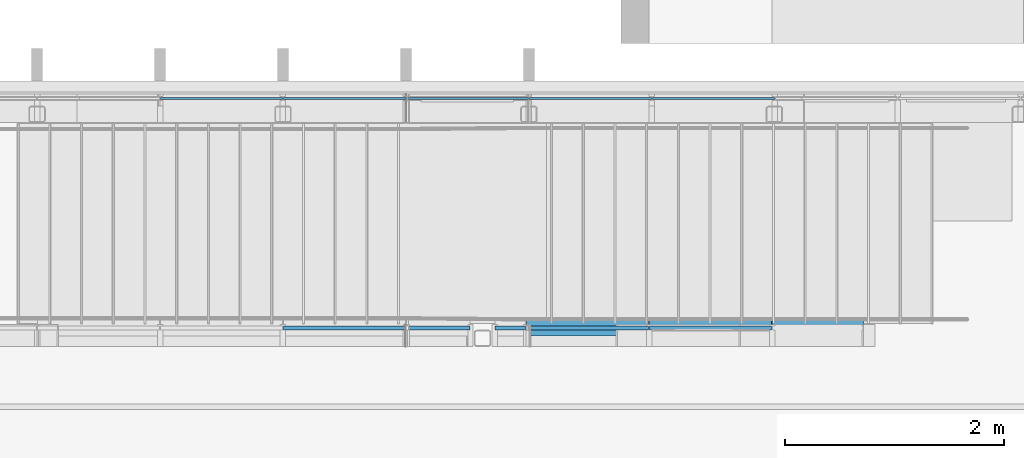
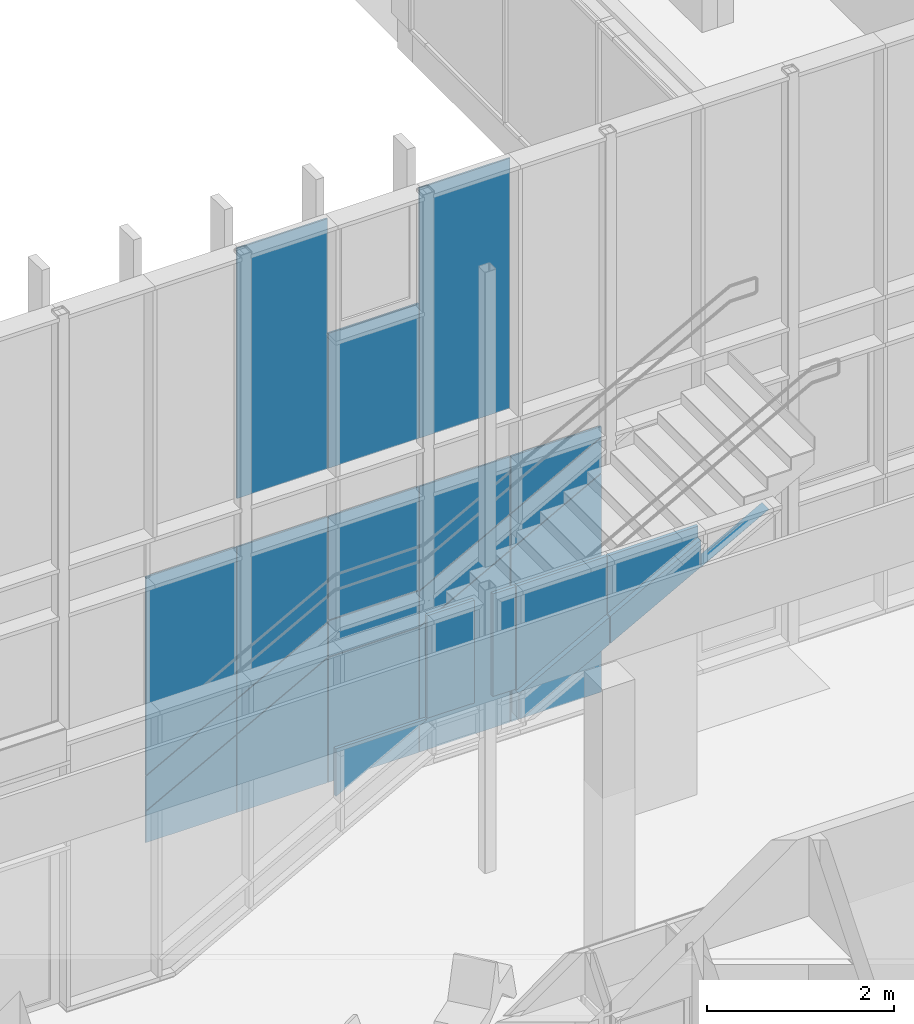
# One storey, part 74 of 301: 25 plates, 3 elements without a shape of their own.
"""IFC2X3 building model written with IfcOpenShell, lengths in millimetres."""

from ifc_helpers import new_model, entity, si_unit, converted_unit, derived_unit, money_unit, direction, frame, origin_with_axes, place, context, subcontext, project, spatial, faceted_brep, material, type_object, element, aggregate, save


model = new_model("IFC2X3")

# Units and contexts
model_context = context("Model", 3, precision=0.01, world=origin_with_axes(), true_north=direction((0.0, 1.0)))
body_context = subcontext(model_context, "Body", "Model", "MODEL_VIEW")
ifc_project = project(units=[si_unit("LENGTHUNIT", "METRE", prefix="MILLI"), si_unit("AREAUNIT", "SQUARE_METRE"), si_unit("VOLUMEUNIT", "CUBIC_METRE"), converted_unit("PLANEANGLEUNIT", "DEGREE", entity("IfcPlaneAngleMeasure", 0.0174532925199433), si_unit("PLANEANGLEUNIT", "RADIAN"), dimensions=[0, 0, 0, 0, 0, 0, 0]), money_unit("EUR"), converted_unit("TIMEUNIT", "Year", entity("IfcTimeMeasure", 31557600.0), si_unit("TIMEUNIT", "SECOND"), dimensions=[0, 0, 1, 0, 0, 0, 0]), si_unit("MASSUNIT", "GRAM", prefix="KILO"), si_unit("THERMODYNAMICTEMPERATUREUNIT", "DEGREE_CELSIUS"), si_unit("LUMINOUSINTENSITYUNIT", "LUMEN"), si_unit("ENERGYUNIT", "JOULE", prefix="MEGA"), derived_unit("THERMALCONDUCTANCEUNIT", [(si_unit("POWERUNIT", "WATT"), 1), (si_unit("LENGTHUNIT", "METRE"), -1), (si_unit("THERMODYNAMICTEMPERATUREUNIT", "KELVIN"), -1)]), derived_unit("SPECIFICHEATCAPACITYUNIT", [(si_unit("ENERGYUNIT", "JOULE"), 1), (si_unit("MASSUNIT", "GRAM", prefix="KILO"), -1), (si_unit("THERMODYNAMICTEMPERATUREUNIT", "KELVIN"), -1)]), derived_unit("MASSDENSITYUNIT", [(si_unit("MASSUNIT", "GRAM", prefix="KILO"), 1), (si_unit("VOLUMEUNIT", "CUBIC_METRE"), -1)])], contexts=[model_context])

# Site, building, storey
site_placement = place(None, frame((0.0, 0.0, 8650.0), z_axis=(0.0, 0.0, 1.0), x_axis=(1.0, 0.0, 0.0)))
site = spatial("IfcSite", under=ifc_project, at=site_placement, Name="43301:001:0844", CompositionType="ELEMENT")
building_placement = place(site_placement, origin_with_axes())
building = spatial("IfcBuilding", under=site, at=building_placement, Name="Kuressaare Ametikooli tuulikute mehaanikute õppekorpus", CompositionType="ELEMENT")
storey_placement = place(building_placement, origin_with_axes())
storey = spatial("IfcBuildingStorey", under=building, at=storey_placement, Name="1.korrus", CompositionType="ELEMENT", Elevation=0.0)

# Curtain wall, plates
curtain_wall_type = type_object("IfcCurtainWallType", Name="Curtain Wall Type", PredefinedType="NOTDEFINED")
curtain_wall_1_placement = place(storey_placement, frame((116704.6026822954, 28579.57374875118, 35.00000000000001), z_axis=(0.0, 0.0, 1.0), x_axis=(1.0, 0.0, 0.0)))
curtain_wall_1 = element("IfcCurtainWall", 1, at=curtain_wall_1_placement, inside=storey, type_object=curtain_wall_type, Name="KF-1.1")
ifc_material_1 = material(Name="Aluminium")
plate_type_1 = type_object("IfcPlateType", Name="20", PredefinedType="NOTDEFINED")
plate_1_placement = place(curtain_wall_1_placement, frame((-3487.500000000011, 0.0, 2731.833061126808), z_axis=(0.0, 0.0, 1.0), x_axis=(-1.0, 0.0, 0.0)))
plate_1 = element("IfcPlate", 2, at=plate_1_placement, type_object=plate_type_1, material=ifc_material_1, context=body_context, shape_type="Brep", body=[
    faceted_brep([(-670.0000055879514, 10.00000000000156, 586.6954813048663), (-670.0000055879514, -10.00000000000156, 586.6954813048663), (445.0000055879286, -10.00000000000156, -19.42579489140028), (445.0000055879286, 10.00000000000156, -19.42579489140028), (-670.0000055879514, 10.00000000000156, 129.5825914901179), (-670.0000055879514, -10.00000000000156, 129.5825914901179), (445.0000055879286, -10.00000000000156, -476.5386847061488), (445.0000055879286, -10.00000000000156, -220.31358457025), (445.0000055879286, 10.00000000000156, -220.31358457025), (445.0000055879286, 10.00000000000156, -476.5386847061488)], [[[0, 1, 2, 3]], [[4, 5, 1, 0]], [[1, 5, 6, 7, 2]], [[3, 2, 7, 8]], [[0, 3, 8, 9, 4]], [[9, 6, 5, 4]], [[8, 7, 6, 9]]]),
])
plate_2_placement = place(curtain_wall_1_placement, frame((-4500.0, 0.0, 2208.822659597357), z_axis=(0.0, 0.0, 1.0), x_axis=(-1.0, 0.0, 0.0)))
plate_2 = element("IfcPlate", 3, at=plate_2_placement, type_object=plate_type_1, material=ifc_material_1, context=body_context, shape_type="Brep", body=[
    faceted_brep([(-557.50000558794, 10.00000000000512, 498.148541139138), (-557.50000558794, -9.99999999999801, 498.148541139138), (557.50000558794, -9.99999999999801, -107.9727350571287), (557.50000558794, 10.00000000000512, -107.9727350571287), (-557.50000558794, 10.00000000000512, 302.6968231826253), (-557.50000558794, -9.99999999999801, 302.6968231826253), (-557.50000558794, -9.99999999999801, 41.03565132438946), (557.50000558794, -9.99999999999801, -565.0856248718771), (557.50000558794, -9.99999999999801, -168.8226440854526), (557.50000558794, 10.00000000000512, -168.8226440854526), (557.50000558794, 10.00000000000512, -565.0856248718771), (-557.50000558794, 10.00000000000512, 41.03565132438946)], [[[0, 1, 2, 3]], [[4, 5, 1, 0]], [[1, 5, 6, 7, 8, 2]], [[3, 2, 8, 9]], [[0, 3, 9, 10, 11, 4]], [[11, 6, 5, 4]], [[10, 7, 6, 11]], [[9, 8, 7, 10]]]),
])
plate_3_placement = place(curtain_wall_1_placement, frame((-6750.0, 0.0, 1559.36315356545), z_axis=(0.0, 0.0, 1.0), x_axis=(-1.0, 0.0, 0.0)))
plate_3 = element("IfcPlate", 4, at=plate_3_placement, type_object=plate_type_1, material=ifc_material_1, context=body_context, shape_type="Brep", body=[
    faceted_brep([(-557.50000558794, 10.00000000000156, 527.2779608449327), (-557.50000558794, -10.00000000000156, 527.2779608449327), (557.50000558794, -10.00000000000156, -78.93759508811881), (557.50000558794, 10.00000000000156, -78.93759508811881), (-557.50000558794, 10.00000000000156, 78.93759601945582), (-557.50000558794, -10.00000000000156, 78.93759601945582), (557.50000558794, -10.00000000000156, -527.2779766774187), (557.50000558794, 10.00000000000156, -527.2779766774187)], [[[0, 1, 2, 3]], [[4, 5, 1, 0]], [[1, 5, 6, 2]], [[3, 2, 6, 7]], [[0, 3, 7, 4]], [[7, 6, 5, 4]]]),
])
plate_4_placement = place(curtain_wall_1_placement, frame((-7875.0, 0.0, 947.7106907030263), z_axis=(0.0, 0.0, 1.0), x_axis=(-1.0, 0.0, 0.0)))
plate_4 = element("IfcPlate", 5, at=plate_4_placement, type_object=plate_type_1, material=ifc_material_1, context=body_context, shape_type="Brep", body=[
    faceted_brep([(-557.50000558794, 10.00000000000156, 527.2779623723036), (-557.50000558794, -10.00000000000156, 527.2779623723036), (557.50000558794, -10.00000000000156, -78.9375600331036), (557.50000558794, 10.00000000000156, -78.9375600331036), (-557.50000558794, 10.00000000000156, 78.93758078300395), (-557.50000558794, -10.00000000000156, 78.93758078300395), (557.50000558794, -10.00000000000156, -527.2779919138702), (557.50000558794, 10.00000000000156, -527.2779919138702)], [[[0, 1, 2, 3]], [[4, 5, 1, 0]], [[1, 5, 6, 2]], [[3, 2, 6, 7]], [[0, 3, 7, 4]], [[7, 6, 5, 4]]]),
])
plate_type_2 = type_object("IfcPlateType", Name="1097 x 458 x 20", PredefinedType="NOTDEFINED")
plate_5_placement = place(curtain_wall_1_placement, frame((-5620.8948575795, 0.0, 1979.082700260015), z_axis=(0.0, 0.0, 1.0), x_axis=(-1.0, 0.0, 0.0)))
plate_5 = element("IfcPlate", 6, at=plate_5_placement, type_object=plate_type_2, material=ifc_material_1, context=body_context, shape_type="Brep", body=[
    faceted_brep([(-553.3948631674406, 10.00000000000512, 129.4661270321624), (-553.3948631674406, -9.99999999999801, 129.4661270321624), (543.8507178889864, -9.99999999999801, 129.4661270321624), (543.8507178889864, 10.00000000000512, 129.4661270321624), (-553.3948631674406, 10.00000000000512, 124.7402043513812), (-553.3948631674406, -9.99999999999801, 124.7402043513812), (-553.3948631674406, -9.99999999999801, 60.91731525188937), (-553.3948631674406, -9.99999999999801, -338.7547229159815), (561.6051480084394, -9.99999999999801, -338.7547229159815), (561.6051480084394, -9.99999999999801, 118.9341215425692), (561.6051480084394, 10.00000000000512, 118.9341215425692), (561.6051480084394, 10.00000000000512, -338.7547229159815), (-553.3948631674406, 10.00000000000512, -338.7547229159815), (-553.3948631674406, 10.00000000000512, 60.91731525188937)], [[[0, 1, 2, 3]], [[4, 5, 1, 0]], [[1, 5, 6, 7, 8, 9, 2]], [[3, 2, 9, 10]], [[0, 3, 10, 11, 12, 13, 4]], [[13, 6, 5, 4]], [[12, 7, 6, 13]], [[11, 8, 7, 12]], [[10, 9, 8, 11]]]),
])
ifc_material_2 = material(Name="Klaas")
plate_type_3 = type_object("IfcPlateType", Name="Main Panel 1115 x 1625 x 20", PredefinedType="NOTDEFINED")
plate_6_placement = place(curtain_wall_1_placement, frame((-5625.0, 0.0, 817.6639914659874), z_axis=(0.0, 0.0, 1.0), x_axis=(-1.0, 0.0, 0.0)))
plate_6 = element("IfcPlate", 7, at=plate_6_placement, type_object=plate_type_3, material=ifc_material_2, context=body_context, shape_type="Brep", body=[
    faceted_brep([(-557.4999943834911, 10.00000000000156, 812.6639799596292), (-557.4999943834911, -10.00000000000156, 812.6639799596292), (557.499988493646, -10.00000000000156, 812.6639799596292), (557.499988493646, 10.00000000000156, 812.6639799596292), (-557.4999943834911, 10.00000000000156, -812.6639799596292), (-557.4999943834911, -10.00000000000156, -812.6639799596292), (557.499988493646, -10.00000000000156, -812.6639799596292), (557.499988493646, 10.00000000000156, -812.6639799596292)], [[[0, 1, 2, 3]], [[4, 5, 1, 0]], [[1, 5, 6, 2]], [[3, 2, 6, 7]], [[0, 3, 7, 4]], [[7, 6, 5, 4]]]),
])
plate_type_4 = type_object("IfcPlateType", Name="Main Panel 1115 x 1627 x 20", PredefinedType="NOTDEFINED")
plate_7_placement = place(curtain_wall_1_placement, frame((-4500.0, 0.0, 970.5533268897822), z_axis=(0.0, 0.0, 1.0), x_axis=(-1.0, 0.0, 0.0)))
plate_7 = element("IfcPlate", 8, at=plate_7_placement, type_object=plate_type_4, material=ifc_material_2, context=body_context, shape_type="Brep", body=[
    faceted_brep([(-557.4999880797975, 10.00000000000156, 1267.92295186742), (-557.4999880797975, -10.00000000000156, 1267.92295186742), (557.5000132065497, -10.00000000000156, 661.8016897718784), (557.5000132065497, 10.00000000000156, 661.8016897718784), (-557.4999880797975, 10.00000000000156, -965.5533400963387), (-557.4999880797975, -10.00000000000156, -965.5533400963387), (557.5000132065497, -10.00000000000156, -965.5533400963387), (557.5000132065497, 10.00000000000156, -965.5533400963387)], [[[0, 1, 2, 3]], [[4, 5, 1, 0]], [[1, 5, 6, 2]], [[3, 2, 6, 7]], [[0, 3, 7, 4]], [[7, 6, 5, 4]]]),
])
plate_type_5 = type_object("IfcPlateType", Name="Main Panel 1115 x 3260 x 20", PredefinedType="NOTDEFINED")
plate_8_placement = place(curtain_wall_1_placement, frame((-6637.500000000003, 0.0, 5751.999997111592), z_axis=(0.0, 0.0, 1.0), x_axis=(-1.0, 0.0, 0.0)))
plate_8 = element("IfcPlate", 9, at=plate_8_placement, type_object=plate_type_5, material=ifc_material_2, context=body_context, shape_type="Brep", body=[
    faceted_brep([(-444.999978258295, 10.00000000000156, 1602.99994103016), (-444.999978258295, -10.00000000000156, 1602.99994103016), (669.9999924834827, -10.00000000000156, 1602.99994103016), (669.9999924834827, 10.00000000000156, 1602.99994103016), (-444.999978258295, 10.00000000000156, 108.0000812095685), (-444.999978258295, -10.00000000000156, 108.0000812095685), (-444.999978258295, -10.00000000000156, -1656.999989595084), (669.9999924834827, -10.00000000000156, -1656.999989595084), (669.9999924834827, 10.00000000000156, -1656.999989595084), (-444.999978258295, 10.00000000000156, -1656.999989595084)], [[[0, 1, 2, 3]], [[4, 5, 1, 0]], [[1, 5, 6, 7, 2]], [[3, 2, 7, 8]], [[0, 3, 8, 9, 4]], [[9, 6, 5, 4]], [[8, 7, 6, 9]]]),
])
plate_type_6 = type_object("IfcPlateType", Name="Main Panel 1115 x 2239 x 20", PredefinedType="NOTDEFINED")
plate_9_placement = place(curtain_wall_1_placement, frame((-3262.500000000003, 0.0, 1441.065590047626), z_axis=(0.0, 0.0, 1.0), x_axis=(-1.0, 0.0, 0.0)))
plate_9 = element("IfcPlate", 10, at=plate_9_placement, type_object=plate_type_6, material=ifc_material_2, context=body_context, shape_type="Brep", body=[
    faceted_brep([(-444.9999883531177, 10.00000000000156, 1408.968052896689), (-444.9999883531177, -10.00000000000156, 1408.968052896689), (669.9999998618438, -10.00000000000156, 802.8467450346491), (669.9999998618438, 10.00000000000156, 802.8467450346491), (-444.9999883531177, 10.00000000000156, 658.934382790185), (-444.9999883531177, -10.00000000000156, 658.934382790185), (-444.9999883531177, -10.00000000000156, -1436.065589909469), (669.9999998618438, -10.00000000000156, -1436.065589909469), (669.9999998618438, 10.00000000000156, -1436.065589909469), (-444.9999883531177, 10.00000000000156, -1436.065589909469)], [[[0, 1, 2, 3]], [[4, 5, 1, 0]], [[1, 5, 6, 7, 2]], [[3, 2, 7, 8]], [[0, 3, 8, 9, 4]], [[9, 6, 5, 4]], [[8, 7, 6, 9]]]),
])
plate_type_7 = type_object("IfcPlateType", Name="Main Panel 1115 x 383 x 20", PredefinedType="NOTDEFINED")
plate_10_placement = place(curtain_wall_1_placement, frame((-7987.500000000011, 0.0, 364.8246381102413), z_axis=(0.0, 0.0, 1.0), x_axis=(-1.0, 0.0, 0.0)))
plate_10 = element("IfcPlate", 11, at=plate_10_placement, type_object=plate_type_7, material=ifc_material_2, context=body_context, shape_type="Brep", body=[
    faceted_brep([(-670.0000055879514, 10.00000000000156, 650.4411914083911), (-670.0000055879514, -10.00000000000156, 650.4411914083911), (445.0000055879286, -10.00000000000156, 44.22561871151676), (445.0000055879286, 10.00000000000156, 44.22561871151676), (-670.0000055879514, 10.00000000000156, -359.8246436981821), (-670.0000055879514, -10.00000000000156, -359.8246436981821), (445.0000055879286, -10.00000000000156, -359.8246436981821), (445.0000055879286, -10.00000000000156, 23.60001521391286), (445.0000055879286, 10.00000000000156, 23.60001521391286), (445.0000055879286, 10.00000000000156, -359.8246436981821)], [[[0, 1, 2, 3]], [[4, 5, 1, 0]], [[1, 5, 6, 7, 2]], [[3, 2, 7, 8]], [[0, 3, 8, 9, 4]], [[9, 6, 5, 4]], [[8, 7, 6, 9]]]),
])
plate_type_8 = type_object("IfcPlateType", Name="Main Panel 1115 x 1016 x 20", PredefinedType="NOTDEFINED")
plate_11_placement = place(curtain_wall_1_placement, frame((-6750.0, 0.0, 664.7508719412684), z_axis=(0.0, 0.0, 1.0), x_axis=(-1.0, 0.0, 0.0)))
plate_11 = element("IfcPlate", 12, at=plate_11_placement, type_object=plate_type_8, material=ifc_material_2, context=body_context, shape_type="Brep", body=[
    faceted_brep([(-557.4999943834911, 10.00000000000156, 962.1674369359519), (-557.4999943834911, -10.00000000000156, 962.1674369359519), (557.499988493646, -10.00000000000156, 355.9518692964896), (557.499988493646, 10.00000000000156, 355.9518692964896), (-557.4999943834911, 10.00000000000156, -659.7508604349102), (-557.4999943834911, -10.00000000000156, -659.7508604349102), (557.499988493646, -10.00000000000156, -659.7508604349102), (557.499988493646, 10.00000000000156, -659.7508604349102)], [[[0, 1, 2, 3]], [[4, 5, 1, 0]], [[1, 5, 6, 2]], [[3, 2, 6, 7]], [[0, 3, 7, 4]], [[7, 6, 5, 4]]]),
])
plate_type_9 = type_object("IfcPlateType", Name="Main Panel 1115 x 1973 x 20", PredefinedType="NOTDEFINED")
plate_12_placement = place(curtain_wall_1_placement, frame((-6637.500000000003, 0.0, 2526.399592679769), z_axis=(0.0, 0.0, 1.0), x_axis=(-1.0, 0.0, 0.0)))
plate_12 = element("IfcPlate", 13, at=plate_12_placement, type_object=plate_type_9, material=ifc_material_2, context=body_context, shape_type="Brep", body=[
    faceted_brep([(-445.000004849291, 10.00000000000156, 938.6004139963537), (-445.000004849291, -10.00000000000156, 938.6004139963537), (669.9999986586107, -10.00000000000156, 938.6004139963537), (669.9999986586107, 10.00000000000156, 938.6004139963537), (-445.000004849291, 10.00000000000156, -412.8507718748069), (-445.000004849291, -10.00000000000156, -412.8507718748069), (-445.000004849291, -10.00000000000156, -428.3760369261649), (669.9999986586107, -10.00000000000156, -1034.591589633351), (669.9999986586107, 10.00000000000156, -1034.591589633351), (-445.000004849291, 10.00000000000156, -428.3760369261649)], [[[0, 1, 2, 3]], [[4, 5, 1, 0]], [[1, 5, 6, 7, 2]], [[3, 2, 7, 8]], [[0, 3, 8, 9, 4]], [[9, 6, 5, 4]], [[8, 7, 6, 9]]]),
])
plate_type_10 = type_object("IfcPlateType", Name="Main Panel 1115 x 2585 x 20", PredefinedType="NOTDEFINED")
plate_13_placement = place(curtain_wall_1_placement, frame((-7875.0, 0.0, 2323.786061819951), z_axis=(0.0, 0.0, 1.0), x_axis=(-1.0, 0.0, 0.0)))
plate_13 = element("IfcPlate", 14, at=plate_13_placement, type_object=plate_type_10, material=ifc_material_2, context=body_context, shape_type="Brep", body=[
    faceted_brep([(-557.500011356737, 10.00000000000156, 1141.213960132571), (-557.500011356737, -10.00000000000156, 1141.213960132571), (557.5000139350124, -10.00000000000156, 1141.213960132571), (557.5000139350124, 10.00000000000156, 1141.213960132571), (-557.500011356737, 10.00000000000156, -837.4149306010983), (-557.500011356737, -10.00000000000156, -837.4149306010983), (557.5000139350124, -10.00000000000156, -1443.630510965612), (557.5000139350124, 10.00000000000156, -1443.630510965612)], [[[0, 1, 2, 3]], [[4, 5, 1, 0]], [[1, 5, 6, 2]], [[3, 2, 6, 7]], [[0, 3, 7, 4]], [[7, 6, 5, 4]]]),
])
plate_type_11 = type_object("IfcPlateType", Name="Main Panel 1115 x 1351 x 20", PredefinedType="NOTDEFINED")
plate_14_placement = place(curtain_wall_1_placement, frame((-4612.500000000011, 0.0, 2774.550398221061), z_axis=(0.0, 0.0, 1.0), x_axis=(-1.0, 0.0, 0.0)))
plate_14 = element("IfcPlate", 15, at=plate_14_placement, type_object=plate_type_11, material=ifc_material_2, context=body_context, shape_type="Brep", body=[
    faceted_brep([(-670.000008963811, 10.00000000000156, 690.4496015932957), (-670.000008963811, -10.00000000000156, 690.4496015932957), (444.9999917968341, -10.00000000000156, 690.4496015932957), (444.9999917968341, 10.00000000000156, 690.4496015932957), (-670.000008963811, 10.00000000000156, -56.19714670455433), (-670.000008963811, -10.00000000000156, -56.19714670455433), (444.9999917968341, -10.00000000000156, -662.318426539), (444.9999917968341, -10.00000000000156, -661.0015912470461), (444.9999917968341, 10.00000000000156, -661.0015912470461), (444.9999917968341, 10.00000000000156, -662.318426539)], [[[0, 1, 2, 3]], [[4, 5, 1, 0]], [[1, 5, 6, 7, 2]], [[3, 2, 7, 8]], [[0, 3, 8, 9, 4]], [[9, 6, 5, 4]], [[8, 7, 6, 9]]]),
])
plate_type_12 = type_object("IfcPlateType", Name="Main Panel 1115 x 741 x 20", PredefinedType="NOTDEFINED")
plate_15_placement = place(curtain_wall_1_placement, frame((-3375.0, 0.0, 3245.579463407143), z_axis=(0.0, 0.0, 1.0), x_axis=(-1.0, 0.0, 0.0)))
plate_15 = element("IfcPlate", 16, at=plate_15_placement, type_object=plate_type_12, material=ifc_material_2, context=body_context, shape_type="Brep", body=[
    faceted_brep([(-557.50000558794, 10.00000000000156, 219.4205475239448), (-557.50000558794, -10.00000000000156, 219.4205475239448), (557.50000558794, -10.00000000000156, 219.4205475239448), (557.50000558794, 10.00000000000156, 219.4205475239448), (-557.50000558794, 10.00000000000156, 84.33111253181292), (-557.50000558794, -10.00000000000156, 84.33111253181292), (557.50000558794, -10.00000000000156, -521.7901636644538), (557.50000558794, 10.00000000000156, -521.7901636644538)], [[[0, 1, 2, 3]], [[4, 5, 1, 0]], [[1, 5, 6, 2]], [[3, 2, 6, 7]], [[0, 3, 7, 4]], [[7, 6, 5, 4]]]),
])
plate_type_13 = type_object("IfcPlateType", Name="Main Panel 1115 x 1346 x 20", PredefinedType="NOTDEFINED")
plate_16_placement = place(curtain_wall_1_placement, frame((-5731.263355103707, 0.0, 2656.129295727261), z_axis=(0.0, 0.0, 1.0), x_axis=(-1.0, 0.0, 0.0)))
plate_16 = element("IfcPlate", 17, at=plate_16_placement, type_object=plate_type_13, material=ifc_material_2, context=body_context, shape_type="Brep", body=[
    faceted_brep([(-663.7633482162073, 10.00000000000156, 808.8707126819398), (-663.7633482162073, -10.00000000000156, 808.8707126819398), (451.2366452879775, -10.00000000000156, 808.8707126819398), (451.2366452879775, 10.00000000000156, 808.8707126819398), (-663.7633482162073, 10.00000000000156, -537.5804752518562), (-663.7633482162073, -10.00000000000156, -537.5804752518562), (425.0534150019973, -10.00000000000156, -537.5804752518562), (451.2366452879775, -10.00000000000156, -537.5804752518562), (451.2366452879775, 10.00000000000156, -537.5804752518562), (425.0534150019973, 10.00000000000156, -537.5804752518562)], [[[0, 1, 2, 3]], [[4, 5, 1, 0]], [[1, 5, 6, 7, 2]], [[3, 2, 7, 8]], [[0, 3, 8, 9, 4]], [[9, 6, 5, 4]], [[8, 7, 6, 9]]]),
])
plate_type_14 = type_object("IfcPlateType", Name="Main Panel 1115 x 1495 x 20", PredefinedType="NOTDEFINED")
plate_17_placement = place(curtain_wall_1_placement, frame((-4612.500000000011, 0.0, 5751.999997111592), z_axis=(0.0, 0.0, 1.0), x_axis=(-1.0, 0.0, 0.0)))
plate_17 = element("IfcPlate", 18, at=plate_17_placement, type_object=plate_type_14, material=ifc_material_2, context=body_context, shape_type="Brep", body=[
    faceted_brep([(-669.9999782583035, 10.00000000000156, 1602.99994103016), (-669.9999782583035, -10.00000000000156, 1602.99994103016), (444.9999924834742, -10.00000000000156, 1602.99994103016), (444.9999924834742, 10.00000000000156, 1602.99994103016), (-669.9999782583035, 10.00000000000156, -1656.999989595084), (-669.9999782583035, -10.00000000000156, -1656.999989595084), (444.9999924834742, -10.00000000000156, -1656.999989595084), (444.9999924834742, -10.00000000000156, 108.0000812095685), (444.9999924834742, 10.00000000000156, 108.0000812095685), (444.9999924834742, 10.00000000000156, -1656.999989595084)], [[[0, 1, 2, 3]], [[4, 5, 1, 0]], [[1, 5, 6, 7, 2]], [[3, 2, 7, 8]], [[0, 3, 8, 9, 4]], [[9, 6, 5, 4]], [[8, 7, 6, 9]]]),
])
plate_type_15 = type_object("IfcPlateType", Name="Main Panel 1115 x 1760 x 20", PredefinedType="NOTDEFINED")
plate_18_placement = place(curtain_wall_1_placement, frame((-5625.0, 0.0, 4975.00004712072), z_axis=(0.0, 0.0, 1.0), x_axis=(-1.0, 0.0, 0.0)))
plate_18 = element("IfcPlate", 19, at=plate_18_placement, type_object=plate_type_15, material=ifc_material_2, context=body_context, shape_type="Brep", body=[
    faceted_brep([(-557.4999957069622, 10.00000000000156, 880.0000437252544), (-557.4999957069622, -10.00000000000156, 880.0000437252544), (557.499996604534, -10.00000000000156, 880.0000437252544), (557.499996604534, 10.00000000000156, 880.0000437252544), (-557.4999957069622, 10.00000000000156, -880.0000437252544), (-557.4999957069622, -10.00000000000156, -880.0000437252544), (557.499996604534, -10.00000000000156, -880.0000437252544), (557.499996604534, 10.00000000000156, -880.0000437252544)], [[[0, 1, 2, 3]], [[4, 5, 1, 0]], [[1, 5, 6, 2]], [[3, 2, 6, 7]], [[0, 3, 7, 4]], [[7, 6, 5, 4]]]),
])
aggregate(curtain_wall_1, [plate_1, plate_2, plate_5, plate_6, plate_7, plate_8, plate_9, plate_10, plate_11, plate_3, plate_4, plate_13, plate_12, plate_16, plate_14, plate_15, plate_17, plate_18])

curtain_wall_2_placement = place(storey_placement, frame((105155.4360221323, 26479.57374875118, 34.99996632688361), z_axis=(0.0, 0.0, 1.0), x_axis=(1.0, 0.0, 0.0)))
curtain_wall_2 = element("IfcCurtainWall", 20, at=curtain_wall_2_placement, inside=storey, type_object=curtain_wall_type, Name="SKF-1.1,EI60")
plate_type_16 = type_object("IfcPlateType", Name="Main Panel 1115 x 622 x 40", PredefinedType="NOTDEFINED")
plate_19_placement = place(curtain_wall_2_placement, frame((4910.666659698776, 0.0, 1983.828580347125), z_axis=(0.0, 0.0, 1.0), x_axis=(-1.0, 0.0, 0.0)))
plate_19 = element("IfcPlate", 21, at=plate_19_placement, type_object=plate_type_16, material=ifc_material_2, context=body_context, shape_type="Brep", body=[
    faceted_brep([(-446.0000060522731, 20.00000000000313, 129.7203163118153), (-446.0000060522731, -19.99999999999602, 129.7203163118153), (669.0000051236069, -19.99999999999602, 129.7241049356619), (669.0000051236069, 20.00000000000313, 129.7241049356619), (-445.9999892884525, 20.00000000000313, 124.7203051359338), (-445.9999892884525, -19.99999999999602, 124.7203051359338), (-446.0000060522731, -19.99999999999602, 114.2589088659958), (669.0000051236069, -19.99999999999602, -492.0408182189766), (669.0000051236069, 20.00000000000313, -492.0408182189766), (-446.0000060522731, 20.00000000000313, 114.2589088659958)], [[[0, 1, 2, 3]], [[4, 5, 1, 0]], [[1, 5, 6, 7, 2]], [[3, 2, 7, 8]], [[0, 3, 8, 9, 4]], [[9, 6, 5, 4]], [[8, 7, 6, 9]]]),
])
plate_type_17 = type_object("IfcPlateType", Name="Main Panel 581 x 1336 x 40", PredefinedType="NOTDEFINED")
plate_20_placement = place(curtain_wall_2_placement, frame((5656.256645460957, 0.0, 2562.365909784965), z_axis=(0.0, 0.0, 1.0), x_axis=(-1.0, 0.0, 0.0)))
plate_20 = element("IfcPlate", 22, at=plate_20_placement, type_object=plate_type_17, material=ifc_material_2, context=body_context, shape_type="Brep", body=[
    faceted_brep([(-291.256647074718, 20.00000000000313, 892.6341083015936), (-291.256647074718, -19.99999999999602, 892.6341083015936), (289.5899897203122, -19.99999999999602, 892.6340481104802), (289.5899897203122, 20.00000000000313, 892.6340481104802), (-291.256647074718, 20.00000000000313, -448.817037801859), (-291.256647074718, -19.99999999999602, -448.817037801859), (-257.3562894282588, -19.99999999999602, -448.817037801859), (-257.3562894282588, -19.99999999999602, -443.8170422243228), (260.689607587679, -19.99999999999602, -443.8170422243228), (289.5899897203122, -19.99999999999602, -443.8170422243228), (289.5899897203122, 20.00000000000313, -443.8170422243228), (260.689607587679, 20.00000000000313, -443.8170422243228), (-257.3562894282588, 20.00000000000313, -443.8170422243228), (-257.3562894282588, 20.00000000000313, -448.817037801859)], [[[0, 1, 2, 3]], [[4, 5, 1, 0]], [[1, 5, 6, 7, 8, 9, 2]], [[3, 2, 9, 10]], [[0, 3, 10, 11, 12, 13, 4]], [[13, 6, 5, 4]], [[12, 7, 6, 13]], [[11, 8, 7, 12]], [[10, 9, 8, 11]]]),
])
aggregate(curtain_wall_2, [plate_20, plate_19])

curtain_wall_3_placement = place(storey_placement, frame((111472.5258007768, 26479.57374875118, 1595.348937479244), z_axis=(0.0, 0.0, 1.0), x_axis=(1.0, 0.0, 0.0)))
curtain_wall_3 = element("IfcCurtainWall", 23, at=curtain_wall_3_placement, inside=storey, type_object=curtain_wall_type, Name="SKF-1.2,EI60")
plate_type_18 = type_object("IfcPlateType", Name="Main Panel 279 x 1338 x 40", PredefinedType="NOTDEFINED")
plate_21_placement = place(curtain_wall_3_placement, frame((0.0, 0.0, 1226.232214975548), z_axis=(0.0, 0.0, 1.0), x_axis=(-1.0, 0.0, 0.0)))
plate_21 = element("IfcPlate", 24, at=plate_21_placement, type_object=plate_type_18, material=ifc_material_2, context=body_context, shape_type="Brep", body=[
    faceted_brep([(-139.5766515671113, 19.99999999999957, 668.7678148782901), (-139.5766515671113, -19.99999999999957, 668.7678148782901), (139.5766434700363, -19.99999999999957, 668.7678148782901), (139.5766434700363, 19.99999999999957, 668.7678148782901), (-139.5766515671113, 19.99999999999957, -668.7678148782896), (-139.5766515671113, -19.99999999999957, -668.7678148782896), (139.5766434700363, -19.99999999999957, -668.7678148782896), (139.5766434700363, 19.99999999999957, -668.7678148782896)], [[[0, 1, 2, 3]], [[4, 5, 1, 0]], [[1, 5, 6, 2]], [[3, 2, 6, 7]], [[0, 3, 7, 4]], [[7, 6, 5, 4]]]),
])
plate_type_19 = type_object("IfcPlateType", Name="23 x 332 x 150", PredefinedType="NOTDEFINED")
plate_22_placement = place(curtain_wall_3_placement, frame((643.4217793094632, 0.0, 577.7820178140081), z_axis=(0.0, 0.0, 1.0), x_axis=(-1.0, 0.0, 0.0)))
plate_22 = element("IfcPlate", 25, at=plate_22_placement, type_object=plate_type_19, material=ifc_material_1, context=body_context, shape_type="Brep", body=[
    faceted_brep([(-621.1549036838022, 75.0000000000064, 554.8750309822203), (-621.1549036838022, -74.99999999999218, 554.8750309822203), (-339.390111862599, -74.99999999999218, 401.661586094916), (-339.390111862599, 75.0000000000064, 401.661586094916), (-621.1549036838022, 75.0000000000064, 203.7900045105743), (-621.1549036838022, -74.99999999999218, 203.7900045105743), (-334.613025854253, -74.99999999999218, 47.97811679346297), (458.7591299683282, -74.99999999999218, -383.4311523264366), (471.1350556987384, -74.99999999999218, -383.4311523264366), (493.8451405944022, -74.99999999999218, -383.4311523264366), (493.8451405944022, -74.99999999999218, -51.4214954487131), (493.8451405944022, 75.0000000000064, -51.4214954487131), (493.8451405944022, 75.0000000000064, -383.4311523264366), (471.1350556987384, 75.0000000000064, -383.4311523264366), (458.7591299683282, 75.0000000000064, -383.4311523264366), (-334.613025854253, 75.0000000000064, 47.97811679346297)], [[[0, 1, 2, 3]], [[4, 5, 1, 0]], [[1, 5, 6, 7, 8, 9, 10, 2]], [[3, 2, 10, 11]], [[0, 3, 11, 12, 13, 14, 15, 4]], [[15, 6, 5, 4]], [[14, 7, 6, 15]], [[13, 8, 7, 14]], [[12, 9, 8, 13]], [[11, 10, 9, 12]]]),
])
plate_type_20 = type_object("IfcPlateType", Name="Main Panel 831 x 746 x 40", PredefinedType="NOTDEFINED")
plate_23_placement = place(curtain_wall_3_placement, frame((1923.19222373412, 0.0, 1698.239832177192), z_axis=(0.0, 0.0, 1.0), x_axis=(-1.0, 0.0, 0.0)))
plate_23 = element("IfcPlate", 26, at=plate_23_placement, type_object=plate_type_20, material=ifc_material_2, context=body_context, shape_type="Brep", body=[
    faceted_brep([(-466.384427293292, 20.00000000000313, 196.7601982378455), (-466.384427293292, -19.99999999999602, 196.7601982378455), (-182.2311253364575, -19.99999999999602, 196.7601982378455), (-182.2311253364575, 20.00000000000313, 196.7601982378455), (-466.3844105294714, 20.00000000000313, 57.53412620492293), (-466.3844105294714, -19.99999999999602, 57.53412620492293), (-179.8425824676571, -19.99999999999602, -98.27699830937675), (648.615553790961, -19.99999999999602, -548.7623658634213), (648.6155370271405, -19.99999999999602, 196.7601982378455), (648.6155370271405, 20.00000000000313, 196.7601982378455), (648.615553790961, 20.00000000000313, -548.7623658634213), (-179.8425824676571, 20.00000000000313, -98.27699830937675)], [[[0, 1, 2, 3]], [[4, 5, 1, 0]], [[1, 5, 6, 7, 8, 2]], [[3, 2, 8, 9]], [[0, 3, 9, 10, 11, 4]], [[11, 6, 5, 4]], [[10, 7, 6, 11]], [[9, 8, 7, 10]]]),
])
plate_type_21 = type_object("IfcPlateType", Name="Main Panel 831 x 1343 x 40", PredefinedType="NOTDEFINED")
plate_24_placement = place(curtain_wall_3_placement, frame((704.8185714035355, 0.0, 1272.38586461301), z_axis=(0.0, 0.0, 1.0), x_axis=(-1.0, 0.0, 0.0)))
plate_24 = element("IfcPlate", 27, at=plate_24_placement, type_object=plate_type_21, material=ifc_material_2, context=body_context, shape_type="Brep", body=[
    faceted_brep([(-559.7581079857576, 20.00000000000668, 622.614181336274), (-559.7581079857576, -19.99999999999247, 622.614181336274), (-275.6047825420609, -19.99999999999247, 622.614181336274), (-275.6047825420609, 20.00000000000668, 622.614181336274), (-559.7581079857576, 20.00000000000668, -128.3460212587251), (-559.7581079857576, -19.99999999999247, -128.3460212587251), (-273.2162541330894, -19.99999999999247, -284.157059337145), (555.241936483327, -19.99999999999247, -734.6425571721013), (555.241936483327, -19.99999999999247, -719.9214616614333), (555.241916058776, -19.99999999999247, 622.614181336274), (555.241916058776, 20.00000000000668, 622.614181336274), (555.241936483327, 20.00000000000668, -719.9214616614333), (555.241936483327, 20.00000000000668, -734.6425571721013), (-273.2162541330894, 20.00000000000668, -284.157059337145)], [[[0, 1, 2, 3]], [[4, 5, 1, 0]], [[1, 5, 6, 7, 8, 9, 2]], [[3, 2, 9, 10]], [[0, 3, 10, 11, 12, 13, 4]], [[13, 6, 5, 4]], [[12, 7, 6, 13]], [[11, 8, 7, 12]], [[10, 9, 8, 11]]]),
])
plate_type_22 = type_object("IfcPlateType", Name="5 x 347 x 150", PredefinedType="NOTDEFINED")
plate_25_placement = place(curtain_wall_3_placement, frame((2145.509530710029, 0.0, 1392.682410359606), z_axis=(0.0, 0.0, 1.0), x_axis=(-1.0, 0.0, 0.0)))
plate_25 = element("IfcPlate", 28, at=plate_25_placement, type_object=plate_type_22, material=ifc_material_1, context=body_context, shape_type="Brep", body=[
    faceted_brep([(-1084.913818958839, 75.0000000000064, 459.5809488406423), (-1084.913818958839, -74.99999999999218, 459.5809488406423), (-249.0671017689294, -74.99999999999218, 5.075443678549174), (-249.0671017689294, 75.0000000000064, 5.075443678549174), (-248.9900222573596, 75.0000000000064, -2.387536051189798), (-248.9900222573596, -74.99999999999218, -2.387536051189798), (-246.6014924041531, -74.99999999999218, 2.005031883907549), (42.47472614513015, -74.99999999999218, -155.1849575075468), (870.9328549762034, -74.99999999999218, -605.6727442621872), (870.9328549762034, -74.99999999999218, -254.5877241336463), (37.69763721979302, -74.99999999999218, 198.4952286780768), (-244.0671017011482, -74.99999999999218, 351.7087567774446), (-244.0671017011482, -74.99999999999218, 5.075443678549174), (-244.0671017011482, 75.0000000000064, 5.075443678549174), (-244.0671017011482, 75.0000000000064, 351.7087567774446), (37.69763721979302, 75.0000000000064, 198.4952286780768), (870.9328549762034, 75.0000000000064, -254.5877241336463), (870.9328549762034, 75.0000000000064, -605.6727442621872), (42.47472614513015, 75.0000000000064, -155.1849575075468), (-246.6014924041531, 75.0000000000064, 2.005031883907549)], [[[0, 1, 2, 3]], [[4, 5, 1, 0]], [[1, 5, 6, 7, 8, 9, 10, 11, 12, 2]], [[3, 2, 12, 13]], [[0, 3, 13, 14, 15, 16, 17, 18, 19, 4]], [[19, 6, 5, 4]], [[18, 7, 6, 19]], [[17, 8, 7, 18]], [[16, 9, 8, 17]], [[15, 10, 9, 16]], [[14, 11, 10, 15]], [[13, 12, 11, 14]]]),
])
aggregate(curtain_wall_3, [plate_21, plate_22, plate_23, plate_24, plate_25])

save(model, "model.ifc")
